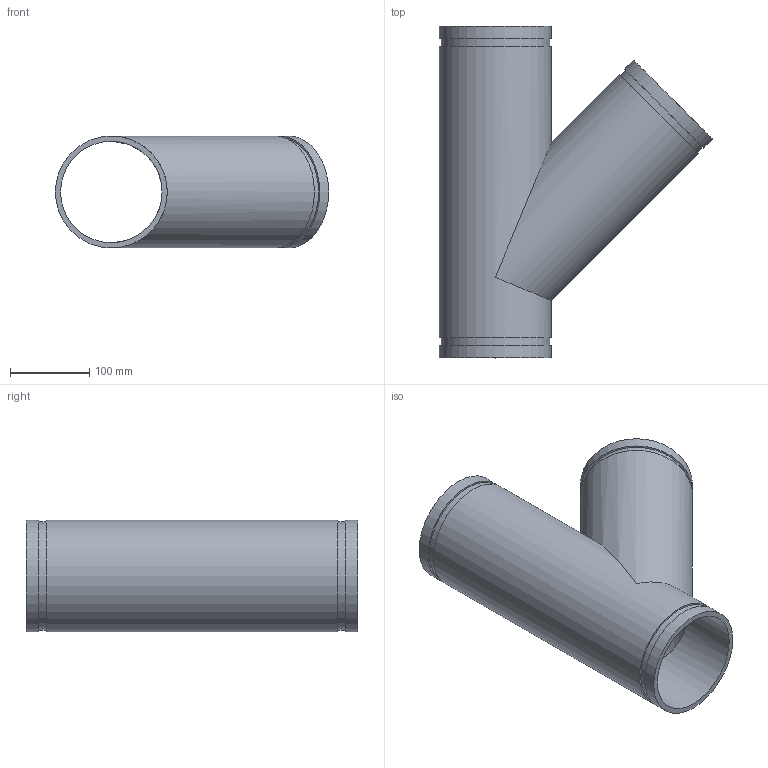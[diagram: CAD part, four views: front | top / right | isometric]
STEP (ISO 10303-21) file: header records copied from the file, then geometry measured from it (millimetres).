
FILE_DESCRIPTION(/* description */ ('VIC 45 DEG FABRICATED LATERAL No 30 SWS (OGS)','CAx-IF Rec.Pracs.---Representation and Presentation of Product Manufacturing Information (PMI)---4.0---2014-10-13'),/* implementation_level */ '2;1');
FILE_NAME(/* name */ 'C:\Users\kkamble\AppData\Roaming\Autodesk\ApplicationPlugins\Back Up\Victaulic_IPS_Lateral 45 Deg_No 30 SWS (OGS)\Victaulic_IPS_Lateral 45 Deg_No 30 SWS (OGS)_5 (125).stp',/* time_stamp */ '2020-09-16T22:20:52+06:00',/* author */ ('cgray'),/* organization */ ('Victaulic'),/* preprocessor_version */ 'ST-DEVELOPER v17.2',/* originating_system */ 'Autodesk Inventor 2019',/* authorisation */ '');
FILE_SCHEMA (('AP242_MANAGED_MODEL_BASED_3D_ENGINEERING_MIM_LF { 1 0 10303 442 1 1 4 }'));
Length unit declared in the file: inch
Products named in the file (1): 30 SWS-05.0
Bounding box: 345.11 x 419.1 x 141.3 mm (x, y, z)
Volume: 1679943 mm3; surface area: 534218.4 mm2
Topology: 1 solids, 1 shells, 19 faces, 45 edges, 34 vertices
Faces by surface type: cylinder 10, plane 9
Full cylindrical faces by diameter (mm): 128.194 x2, 137.033 x3, 141.3 x5
Entity records: 748 total; most frequent: DIRECTION 145, CARTESIAN_POINT 116, ORIENTED_EDGE 90, AXIS2_PLACEMENT_3D 67, EDGE_CURVE 45, VERTEX_POINT 34, EDGE_LOOP 29, CIRCLE 27
